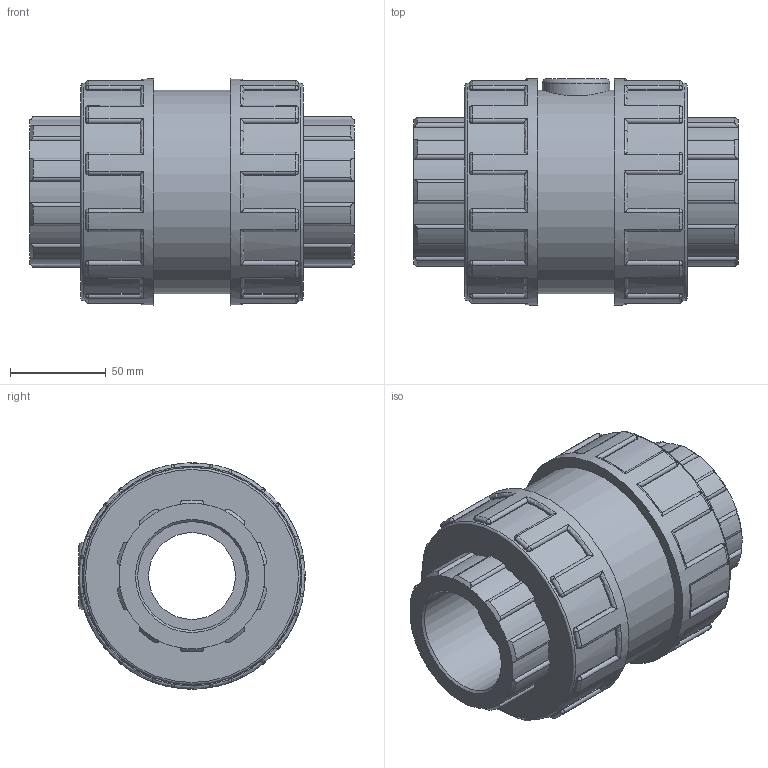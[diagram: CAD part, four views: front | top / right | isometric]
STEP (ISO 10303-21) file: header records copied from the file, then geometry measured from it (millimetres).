
FILE_DESCRIPTION(/* description */ ('PLASSON CHECK VALVE THR 2" PTFE COATED SPRING + EPDM O-RING'),/* implementation_level */ '2;1');
FILE_NAME(/* name */ 'C:\Dropbox\KIMPROJECTS-Inventor\99-16-3568-Processing\PVC Catalog 2017\110810 - 110610 110910 - 110010\11081020.ipt.stp',/* time_stamp */ '2017-12-07T16:08:13+02:00',/* author */ ('KIM'),/* organization */ (''),/* preprocessor_version */ 'ST-DEVELOPER v15.6',/* originating_system */ 'Autodesk Inventor 2015',/* authorisation */ '');
FILE_SCHEMA (('AUTOMOTIVE_DESIGN { 1 0 10303 214 3 1 1 }'));
Length unit declared in the file: millimetre
Products named in the file (1): 11081020
Bounding box: 169 x 118 x 118 mm (x, y, z)
Volume: 1064831.9 mm3; surface area: 105985.7 mm2
Topology: 1 solids, 1 shells, 411 faces, 1021 edges, 618 vertices
Faces by surface type: cylinder 185, plane 105, torus 51, sphere 48, cone 22
Full cylindrical faces by diameter (mm): 35.4 x1, 45.325 x1, 56.656 x2, 106.2 x1, 113.28 x2, 118 x2
Entity records: 13410 total; most frequent: CARTESIAN_POINT 3631, DIRECTION 2180, ORIENTED_EDGE 1998, EDGE_CURVE 999, AXIS2_PLACEMENT_3D 906, VERTEX_POINT 611, CIRCLE 494, EDGE_LOOP 434
